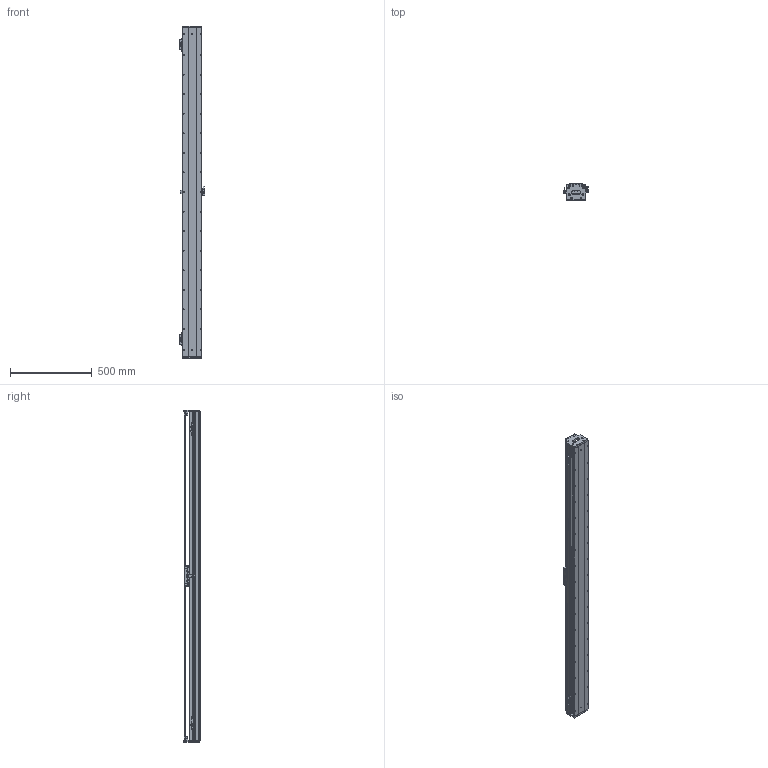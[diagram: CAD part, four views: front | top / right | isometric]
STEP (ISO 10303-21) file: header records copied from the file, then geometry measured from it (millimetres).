
FILE_DESCRIPTION (( 'STEP AP203' ), '1' );
FILE_NAME ('DKW119-C15-W060(T1800-L005-0.2).STEP', '2021-09-02T03:24:59', ( '微软用户' ), ( '微软中国' ), 'SwSTEP 2.0', 'SolidWorks 2018', '' );
FILE_SCHEMA (( 'CONFIG_CONTROL_DESIGN' ));
Length unit declared in the file: millimetre
Products named in the file (27): 葩璃 萇儂堤盄 ^C15-W060; RUS嫖掑喜; 12160-0000-003-00 DKW120詩湍嶺輸; CKM015-W060-C1-TP-0.2+CKM01-W060-TRL240+黍芛; Ru2; 12160-0000-004-00  DKW120詩湍揤輸; C15-W060; 12018-0001-001-00 菁釱; RUS嫖掑郪璃; DKW119 单轴模组-拉钢带组件; CKMA01-W060-TRLxxx; MSB15-DG-U; DKW119-C15-W060(T1800-L005-0.2); pm-y65; DKW-HXJ-JY-00 遣喳砎蝶; 12018-0001-003-00 賑雄怢啣; 10980-0001-003-00 嫖萇羲壽嘐隅釱; 11062-0001-004-00 DKW119傷啣; MSB15TS2FC+U92.7-16.35_16.35N_(0_45.85_0_01G-M4); 嫖萇羲壽蚾饜极; 06652-0001-004-00 DKW120嶺輸菜輸; DKW-HYB-JY-A-00 賑輸揤啣A; 嫖萇羲壽蚾饜极A; 12018-0001-002-00 詩湍; DKW119-RU-DTJ-00 RU2黍杅芛盓殤; DKW-SG-GYP-H-00 嫖萇覜茼え; 砎蝶猾沭
Assembly tree (44 placements, depth 3):
  DKW119-C15-W060(T1800-L005-0.2)
    12018-0001-001-00 菁釱
    MSB15-DG-U  x2
    C15-W060
      12018-0001-003-00 賑雄怢啣
      MSB15TS2FC+U92.7-16.35_16.35N_(0_45.85_0_01G-M4)  x4
      DKW-HYB-JY-A-00 賑輸揤啣A  x2
      DKW119-RU-DTJ-00 RU2黍杅芛盓殤
      葩璃 萇儂堤盄 ^C15-W060
      CKM015-W060-C1-TP-0.2+CKM01-W060-TRL240+黍芛
    CKMA01-W060-TRLxxx
    DKW119 单轴模组-拉钢带组件
      DKW-HXJ-JY-00 遣喳砎蝶  x4
      11062-0001-004-00 DKW119傷啣  x2
      06652-0001-004-00 DKW120嶺輸菜輸  x4
      12018-0001-002-00 詩湍
      砎蝶猾沭  x2
      12160-0000-003-00 DKW120詩湍嶺輸  x2
      12160-0000-004-00  DKW120詩湍揤輸  x2
    嫖萇羲壽蚾饜极
      pm-y65
      10980-0001-003-00 嫖萇羲壽嘐隅釱
    嫖萇羲壽蚾饜极A
      pm-y65  x2
      10980-0001-003-00 嫖萇羲壽嘐隅釱
    DKW-SG-GYP-H-00 嫖萇覜茼え
    RUS嫖掑郪璃
      RUS嫖掑喜
      Ru2
Bounding box: 154.3 x 99 x 2036 mm (x, y, z)
Volume: 8478306.5 mm3; surface area: 2826582.2 mm2
Topology: 50 solids, 99 shells, 4598 faces, 12273 edges, 7835 vertices
Faces by surface type: plane 2346, cylinder 1529, cone 456, bspline 267
Entity records: 120194 total; most frequent: CARTESIAN_POINT 40698, ORIENTED_EDGE 15875, DIRECTION 15260, EDGE_CURVE 7978, VERTEX_POINT 5230, AXIS2_PLACEMENT_3D 5217, LINE 4826, VECTOR 4826
